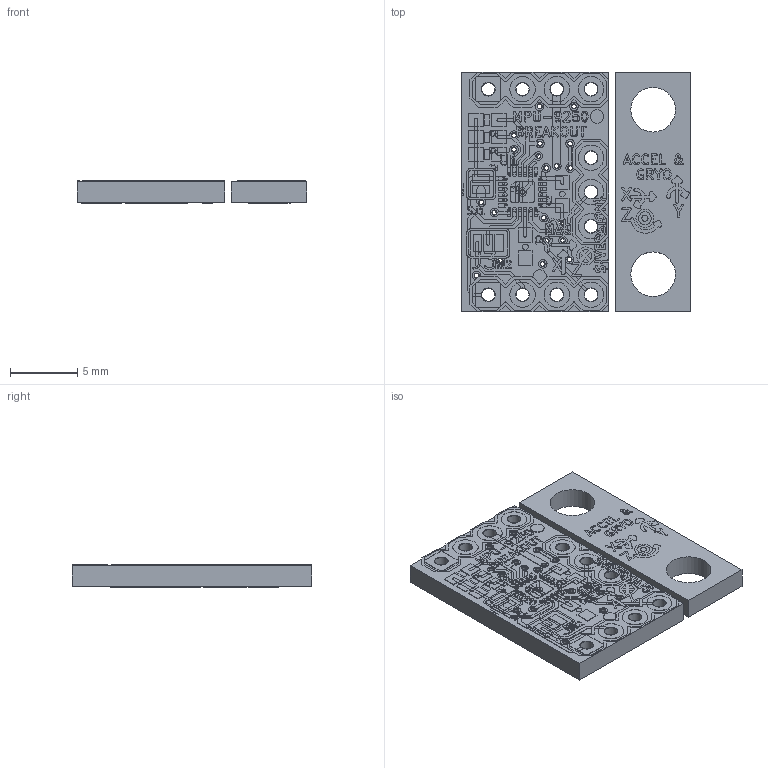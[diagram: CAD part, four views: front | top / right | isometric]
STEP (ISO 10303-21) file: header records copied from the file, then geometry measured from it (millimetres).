
FILE_DESCRIPTION(('KiCad electronic assembly'),'2;1');
FILE_NAME('SparkFun_MPU-9250_Breakout.step','2025-05-24T11:27:06',( 'Pcbnew'),('Kicad'),'Open CASCADE STEP processor 7.6', 'KiCad to STEP converter','Unknown');
FILE_SCHEMA(('AUTOMOTIVE_DESIGN { 1 0 10303 214 1 1 1 1 }'));
Length unit declared in the file: millimetre
Products named in the file (7): SparkFun_MPU-9250_Breakout 1; SparkFun_MPU-9250_Breakout_copper; SparkFun_MPU-9250_Breakout_pad; SparkFun_MPU-9250_Breakout_via; SparkFun_MPU-9250_Breakout_silkscreen; SparkFun_MPU-9250_Breakout_PCB_1; SparkFun_MPU-9250_Breakout_PCB_2
Assembly tree (6 placements, depth 2):
  SparkFun_MPU-9250_Breakout 1
    SparkFun_MPU-9250_Breakout_copper
    SparkFun_MPU-9250_Breakout_pad
    SparkFun_MPU-9250_Breakout_via
    SparkFun_MPU-9250_Breakout_silkscreen
    SparkFun_MPU-9250_Breakout_PCB_1
    SparkFun_MPU-9250_Breakout_PCB_2
Bounding box: 17.02 x 17.78 x 1.66 mm (x, y, z)
Volume: 407.1 mm3; surface area: 1314.3 mm2
Topology: 209 solids, 331 shells, 1898 faces, 6757 edges, 5400 vertices
Faces by surface type: plane 1488, cylinder 410
Full cylindrical faces by diameter (mm): 0.14 x8, 0.331 x22, 0.356 x42, 0.381 x42, 0.635 x12, 0.966 x33, 1 x2, 1.016 x22, 1.88 x18, 3.302 x2
Entity records: 76024 total; most frequent: CARTESIAN_POINT 14062, DIRECTION 11985, ORIENTED_EDGE 10828, EDGE_CURVE 6757, VERTEX_POINT 5400, LINE 5339, VECTOR 5339, AXIS2_PLACEMENT_3D 3323
